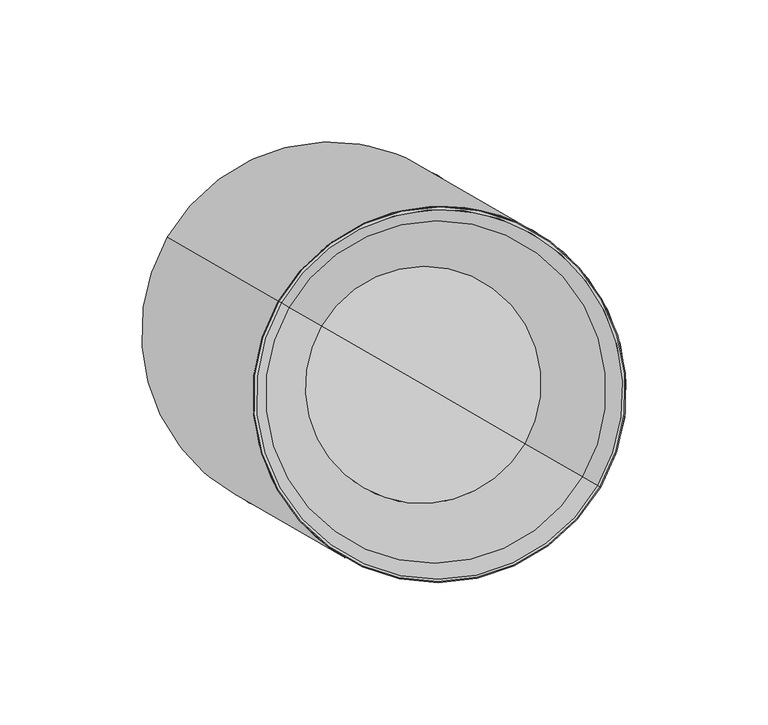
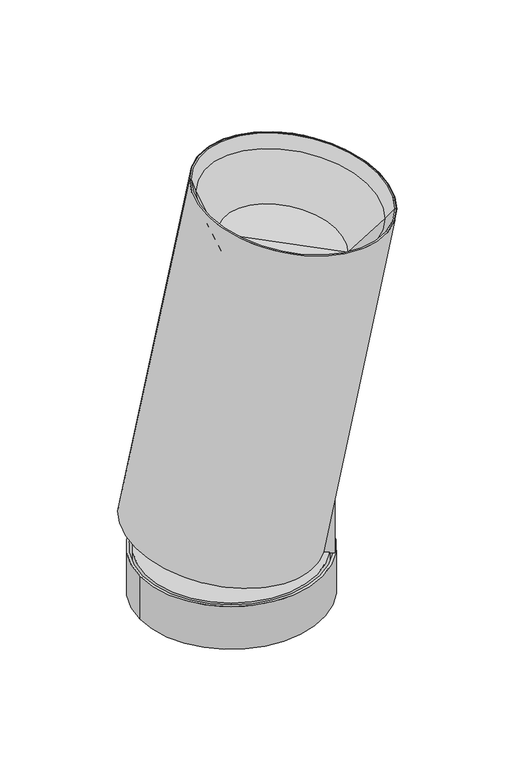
"""IFC4 building model written with IfcOpenShell, lengths in millimetres: light fixture geometry, PIPES C L : 2800 29W-830 62°."""

from ifc_helpers import new_model, si_unit, point, frame, frame_2d, origin, origin_with_axes, origin_2d, place, context, project, spatial, polyline, circle_curve, trimmed, segment, composite_curve, outline, extrude, source, transform, mapped, element, save
from ifc_brep_helpers import plane_surface, cylinder_surface, revolved_surface, advanced_brep


def light_fixture_78c87cf6(model_context):
    return source(origin(), model_context, "Body", "SolidModel", [
        advanced_brep(
        [(46.0559711, -17.352823, 90.5693671), (40.0406217, -13.8798594, 51.1770569), (54.9674868, -22.497889, 48.1378747), (53.3132657, -21.542824, 37.3049894), (55.0318727, -22.5350622, 36.9550727), (62.7014431, -26.9630907, 87.1802681), (38.0559711, -31.2092294, 90.5693671), (54.7014431, -40.8194972, 87.1802681), (47.0318727, -36.3914687, 36.9550727), (45.3132657, -35.3992305, 37.3049894), (46.9674868, -36.3542954, 48.1378747), (32.0406217, -27.7362659, 51.1770569), (36.0406217, -20.8080627, 51.1770569), (59.1133417, -34.1291037, 87.0964035), (-22.8879728, 13.2143773, 316.0164315), (90.5435419, -52.2753383, 292.9212239), (84.768078, -48.9408727, 284.6716899), (-19.9043086, 11.4917579, 305.9834965), (-61.9877434, 35.7886404, 59.9664157), (-60.2820064, 34.8038326, 59.6191194), (-58.6277853, 33.8487676, 70.4520047), (-3.617765, 2.0887176, 59.2516972), (-8.2733864, 4.7766418, 273.1149364), (64.1029801, -37.0098728, 258.3787565), (27.9147969, -16.1166155, 265.7468465)],
        [
            (0, 1),
            (1, 2),
            (2, 3),
            (3, 4),
            (4, 5),
            (5, 0),
            (6, 7),
            (7, 8),
            (8, 9),
            (9, 10),
            (10, 11),
            (11, 6),
            (0, 6),
            (11, 12),
            (12, 1),
            (5, 13, circle_curve(frame((2.3975843, -1.384246, 98.6440073), z_axis=(-0.1503837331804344, 0.08682408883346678, -0.9848077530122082), x_axis=(0.8528685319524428, -0.4924038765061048, -0.17364817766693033)), 66.5)),
            (13, 7, circle_curve(frame((2.3975843, -1.384246, 98.6440073), z_axis=(-0.1503837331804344, 0.08682408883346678, -0.9848077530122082), x_axis=(0.8528685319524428, -0.4924038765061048, -0.17364817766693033)), 66.5)),
            (14, 15, circle_curve(frame((33.8277846, -19.5304805, 304.4688277), z_axis=(0.1503837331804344, -0.08682408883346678, 0.9848077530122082), x_axis=(0.8528685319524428, -0.4924038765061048, -0.17364817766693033)), 66.5)),
            (15, 16),
            (16, 17, circle_curve(frame((32.4318847, -18.7245574, 295.3275932), z_axis=(-0.1503837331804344, 0.08682408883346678, -0.9848077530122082), x_axis=(0.8528685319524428, -0.4924038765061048, -0.17364817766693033)), 61.3649013)),
            (17, 14),
            (15, 14, circle_curve(frame((33.8277846, -19.5304805, 304.4688277), z_axis=(0.1503837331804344, -0.08682408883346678, 0.9848077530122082), x_axis=(0.8528685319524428, -0.4924038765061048, -0.17364817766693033)), 66.5)),
            (17, 16, circle_curve(frame((32.4318847, -18.7245574, 295.3275932), z_axis=(-0.1503837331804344, 0.08682408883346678, -0.9848077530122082), x_axis=(0.8528685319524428, -0.4924038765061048, -0.17364817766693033)), 61.3649013)),
            (14, 18),
            (18, 8, circle_curve(frame((-5.2719861, 3.0437826, 48.4188119), z_axis=(0.1503837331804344, -0.08682408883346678, 0.9848077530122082), x_axis=(0.8528685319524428, -0.4924038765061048, -0.17364817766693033)), 66.5)),
            (13, 15),
            (4, 18, circle_curve(frame((-5.2719861, 3.0437826, 48.4188119), z_axis=(0.1503837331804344, -0.08682408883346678, 0.9848077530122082), x_axis=(0.8528685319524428, -0.4924038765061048, -0.17364817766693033)), 66.5)),
            (18, 19),
            (19, 9, circle_curve(frame((-5.2719861, 3.0437826, 48.4188119), z_axis=(0.1503837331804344, -0.08682408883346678, 0.9848077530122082), x_axis=(0.8528685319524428, -0.4924038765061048, -0.17364817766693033)), 64.5)),
            (3, 19, circle_curve(frame((-5.2719861, 3.0437826, 48.4188119), z_axis=(0.1503837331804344, -0.08682408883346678, 0.9848077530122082), x_axis=(0.8528685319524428, -0.4924038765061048, -0.17364817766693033)), 64.5)),
            (19, 20),
            (20, 10, circle_curve(frame((-3.617765, 2.0887176, 59.2516972), z_axis=(0.1503837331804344, -0.08682408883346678, 0.9848077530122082), x_axis=(0.8528685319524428, -0.4924038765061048, -0.17364817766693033)), 64.5)),
            (2, 20, circle_curve(frame((-3.617765, 2.0887176, 59.2516972), z_axis=(0.1503837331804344, -0.08682408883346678, 0.9848077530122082), x_axis=(0.8528685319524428, -0.4924038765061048, -0.17364817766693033)), 64.5)),
            (20, 21),
            (21, 12),
            (22, 23, circle_curve(frame((27.9147969, -16.1166155, 265.7468465), z_axis=(0.1503837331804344, -0.08682408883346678, 0.9848077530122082), x_axis=(0.8528685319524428, -0.4924038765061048, -0.17364817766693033)), 42.431139)),
            (23, 24),
            (24, 22),
            (23, 22, circle_curve(frame((27.9147969, -16.1166155, 265.7468465), z_axis=(0.1503837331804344, -0.08682408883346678, 0.9848077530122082), x_axis=(0.8528685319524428, -0.4924038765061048, -0.17364817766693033)), 42.431139)),
            (16, 23),
            (22, 17),
        ],
        [
            plane_surface(frame((46.0559711, -17.352823, 90.5693671), z_axis=(-0.5000000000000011, -0.8660254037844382, 0.0), x_axis=(0.15038373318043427, -0.08682408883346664, 0.9848077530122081))),
            plane_surface(frame((38.0559711, -31.2092294, 90.5693671), z_axis=(0.5000000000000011, 0.8660254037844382, 0.0), x_axis=(-0.15038373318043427, 0.08682408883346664, -0.9848077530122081))),
            plane_surface(frame((38.0559711, -31.2092294, 90.5693671), z_axis=(0.8528685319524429, -0.4924038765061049, -0.17364817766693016), x_axis=(0.500000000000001, 0.8660254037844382, 0.0))),
            plane_surface(frame((59.3776844, -43.5193264, 86.2281626), z_axis=(-0.1503837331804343, 0.0868240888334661, -0.9848077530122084), x_axis=(0.500000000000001, 0.8660254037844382, 0.0))),
            revolved_surface(polyline([(84.768078, -48.9408727, 284.6716899), (90.5435419, -52.2753383, 292.9212239)]), (-6.0919355, 3.5171806, 43.0492649), (-0.15038373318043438, 0.08682408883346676, -0.984807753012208)),
            cylinder_surface(frame((-6.0919355, 3.5171806, 43.0492649), z_axis=(-0.15038373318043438, 0.08682408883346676, -0.984807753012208), x_axis=(0.8528685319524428, -0.4924038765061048, -0.17364817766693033)), 66.5),
            plane_surface(frame((-5.2719861, 3.0437826, 48.4188119), z_axis=(-0.1503837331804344, 0.08682408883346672, -0.9848077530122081), x_axis=(0.8528685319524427, -0.49240387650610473, -0.17364817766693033))),
            revolved_surface(polyline([(49.738034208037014, -28.716267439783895, 37.21850444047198), (51.39225528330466, -29.671332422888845, 48.05138979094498)]), (-6.0919355, 3.5171806, 43.0492649), (-0.15038373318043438, 0.08682408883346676, -0.984807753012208)),
            plane_surface(frame((-3.617765, 2.0887176, 59.2516972), z_axis=(-0.1503837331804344, 0.08682408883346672, -0.9848077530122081), x_axis=(0.8528685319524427, -0.49240387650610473, -0.17364817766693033))),
            plane_surface(frame((27.9147969, -16.1166155, 265.7468465), z_axis=(0.1503837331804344, -0.08682408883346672, 0.9848077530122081), x_axis=(0.8528685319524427, -0.49240387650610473, -0.17364817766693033))),
            revolved_surface(polyline([(64.1029801, -37.0098728, 258.3787565), (84.768078, -48.9408727, 284.6716899)]), (-6.0919355, 3.5171806, 43.0492649), (-0.15038373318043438, 0.08682408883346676, -0.984807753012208)),
        ],
        [
            (0, [[1, 2, 3, 4, 5, 6]]),
            (1, [[7, 8, 9, 10, 11, 12]]),
            (2, [[13, -12, 14, 15, -1]]),
            (3, [[-13, -6, 16, 17, -7]]),
            (4, [[18, 19, 20, 21]]),
            (4, [[-19, 22, -21, 23]]),
            (5, [[-18, 24, 25, -8, -17, 26]]),
            (5, [[-22, -26, -16, -5, 27, -24]]),
            (6, [[28, 29, -9, -25]]),
            (6, [[-28, -27, -4, 30]]),
            (7, [[31, 32, -10, -29]]),
            (7, [[-31, -30, -3, 33]]),
            (8, [[34, 35, -14, -11, -32]]),
            (8, [[-34, -33, -2, -15, -35]]),
            (9, [[36, 37, 38]]),
            (9, [[-37, 39, -38]]),
            (10, [[-20, 40, -36, 41]]),
            (10, [[-23, -41, -39, -40]]),
        ],
    ),
        advanced_brep(
        [(38.6871681, -13.0984426, 42.3137872), (38.3864007, -12.9247945, 40.3441717), (51.5883588, -20.5469485, 37.6561888), (51.8891262, -20.7205967, 39.6258043), (30.3864007, -26.7812009, 40.3441717), (30.6871681, -26.9548491, 42.3137872), (43.8891262, -34.5770032, 39.6258043), (43.5883588, -34.403355, 37.6561888), (34.6871681, -20.0266459, 42.3137872), (34.3864007, -19.8529977, 40.3441717), (-4.9712186, 2.8701344, 50.3884274), (-58.2700805, 33.6422467, 61.2403347), (-58.570848, 33.8158948, 59.2707192), (-5.2719861, 3.0437826, 48.4188119)],
        [
            (0, 1),
            (1, 2),
            (2, 3),
            (3, 0),
            (4, 5),
            (5, 6),
            (6, 7),
            (7, 4),
            (0, 8),
            (8, 5),
            (4, 9),
            (9, 1),
            (10, 11),
            (11, 6, circle_curve(frame((-4.9712186, 2.8701344, 50.3884274), z_axis=(0.1503837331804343, -0.0868240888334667, 0.9848077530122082), x_axis=(0.8528685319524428, -0.4924038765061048, -0.1736481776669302)), 62.4936434)),
            (8, 10),
            (3, 11, circle_curve(frame((-4.9712186, 2.8701344, 50.3884274), z_axis=(0.1503837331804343, -0.0868240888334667, 0.9848077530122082), x_axis=(0.8528685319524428, -0.4924038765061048, -0.1736481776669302)), 62.4936434)),
            (11, 12),
            (12, 7, circle_curve(frame((-5.2719861, 3.0437826, 48.4188119), z_axis=(0.1503837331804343, -0.0868240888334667, 0.9848077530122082), x_axis=(0.8528685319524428, -0.4924038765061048, -0.1736481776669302)), 62.4936434)),
            (2, 12, circle_curve(frame((-5.2719861, 3.0437826, 48.4188119), z_axis=(0.1503837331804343, -0.0868240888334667, 0.9848077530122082), x_axis=(0.8528685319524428, -0.4924038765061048, -0.1736481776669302)), 62.4936434)),
            (12, 13),
            (13, 9),
        ],
        [
            plane_surface(frame((46.0559711, -17.352823, 90.5693671), z_axis=(-0.5000000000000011, -0.8660254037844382, 0.0), x_axis=(0.15038373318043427, -0.08682408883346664, 0.9848077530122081))),
            plane_surface(frame((38.0559711, -31.2092294, 90.5693671), z_axis=(0.5000000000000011, 0.8660254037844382, 0.0), x_axis=(-0.15038373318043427, 0.08682408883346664, -0.9848077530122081))),
            plane_surface(frame((38.0559711, -31.2092294, 90.5693671), z_axis=(0.8528685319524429, -0.4924038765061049, -0.17364817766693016), x_axis=(0.500000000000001, 0.8660254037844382, 0.0))),
            plane_surface(frame((-4.9712186, 2.8701344, 50.3884274), z_axis=(0.15038373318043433, -0.08682408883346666, 0.9848077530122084), x_axis=(0.8528685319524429, -0.49240387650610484, -0.17364817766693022))),
            cylinder_surface(frame((-6.0919355, 3.5171806, 43.0492649), z_axis=(-0.15038373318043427, 0.08682408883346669, -0.984807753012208), x_axis=(0.8528685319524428, -0.4924038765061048, -0.1736481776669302)), 62.4936434),
            plane_surface(frame((-5.2719861, 3.0437826, 48.4188119), z_axis=(-0.15038373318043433, 0.08682408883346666, -0.9848077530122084), x_axis=(0.8528685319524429, -0.49240387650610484, -0.17364817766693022))),
        ],
        [
            (0, [[1, 2, 3, 4]]),
            (1, [[5, 6, 7, 8]]),
            (2, [[-1, 9, 10, -5, 11, 12]]),
            (3, [[13, 14, -6, -10, 15]]),
            (3, [[-13, -15, -9, -4, 16]]),
            (4, [[17, 18, -7, -14]]),
            (4, [[-17, -16, -3, 19]]),
            (5, [[20, 21, -11, -8, -18]]),
            (5, [[-20, -19, -2, -12, -21]]),
        ],
    ),
        advanced_brep(
        [(-22.8879728, 13.2143773, 316.0164315), (90.5435419, -52.2753383, 292.9212239), (89.5688625, -51.7126069, 293.1196734), (-21.9132934, 12.6516458, 315.817982), (-7.6524379, 4.4181371, 274.0039349), (63.7827992, -36.8250163, 259.4593735), (28.0651806, -16.2034396, 266.7316542), (-19.0932659, 11.0235022, 306.3352957), (84.1101495, -48.5610175, 285.3225788), (-19.9043086, 11.4917579, 305.9834965), (84.768078, -48.9408727, 284.6716899), (-8.2733864, 4.7766418, 273.1149364), (64.1029801, -37.0098728, 258.3787565), (27.9147969, -16.1166155, 265.7468465)],
        [
            (0, 1, circle_curve(frame((33.8277846, -19.5304805, 304.4688277), z_axis=(0.1503837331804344, -0.08682408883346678, 0.9848077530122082), x_axis=(0.8528685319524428, -0.4924038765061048, -0.17364817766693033)), 66.5)),
            (1, 2),
            (2, 3, circle_curve(frame((33.8277846, -19.5304805, 304.4688277), z_axis=(-0.1503837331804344, 0.08682408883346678, -0.9848077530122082), x_axis=(0.8528685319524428, -0.4924038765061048, -0.17364817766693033)), 65.357175)),
            (3, 0),
            (1, 0, circle_curve(frame((33.8277846, -19.5304805, 304.4688277), z_axis=(0.1503837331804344, -0.08682408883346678, 0.9848077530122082), x_axis=(0.8528685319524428, -0.4924038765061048, -0.17364817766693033)), 66.5)),
            (3, 2, circle_curve(frame((33.8277846, -19.5304805, 304.4688277), z_axis=(-0.1503837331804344, 0.08682408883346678, -0.9848077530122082), x_axis=(0.8528685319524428, -0.4924038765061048, -0.17364817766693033)), 65.357175)),
            (4, 5, circle_curve(frame((28.0651806, -16.2034396, 266.7316542), z_axis=(0.1503837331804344, -0.08682408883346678, 0.9848077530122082), x_axis=(0.8528685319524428, -0.4924038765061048, -0.17364817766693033)), 41.8793955)),
            (5, 6),
            (6, 4),
            (5, 4, circle_curve(frame((28.0651806, -16.2034396, 266.7316542), z_axis=(0.1503837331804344, -0.08682408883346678, 0.9848077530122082), x_axis=(0.8528685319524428, -0.4924038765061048, -0.17364817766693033)), 41.8793955)),
            (7, 8, circle_curve(frame((32.5084418, -18.7687576, 295.8289373), z_axis=(0.1503837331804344, -0.08682408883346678, 0.9848077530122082), x_axis=(0.8528685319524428, -0.4924038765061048, -0.17364817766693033)), 60.5037069)),
            (8, 5),
            (4, 7),
            (8, 7, circle_curve(frame((32.5084418, -18.7687576, 295.8289373), z_axis=(0.1503837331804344, -0.08682408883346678, 0.9848077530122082), x_axis=(0.8528685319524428, -0.4924038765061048, -0.17364817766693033)), 60.5037069)),
            (9, 10, circle_curve(frame((32.4318847, -18.7245574, 295.3275932), z_axis=(0.1503837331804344, -0.08682408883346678, 0.9848077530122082), x_axis=(0.8528685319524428, -0.4924038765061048, -0.17364817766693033)), 61.3649013)),
            (10, 1),
            (0, 9),
            (10, 9, circle_curve(frame((32.4318847, -18.7245574, 295.3275932), z_axis=(0.1503837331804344, -0.08682408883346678, 0.9848077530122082), x_axis=(0.8528685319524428, -0.4924038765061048, -0.17364817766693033)), 61.3649013)),
            (11, 12, circle_curve(frame((27.9147969, -16.1166155, 265.7468465), z_axis=(0.1503837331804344, -0.08682408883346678, 0.9848077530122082), x_axis=(0.8528685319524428, -0.4924038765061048, -0.17364817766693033)), 42.431139)),
            (12, 10),
            (9, 11),
            (12, 11, circle_curve(frame((27.9147969, -16.1166155, 265.7468465), z_axis=(0.1503837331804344, -0.08682408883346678, 0.9848077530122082), x_axis=(0.8528685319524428, -0.4924038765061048, -0.17364817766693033)), 42.431139)),
            (13, 12),
            (11, 13),
            (2, 8),
            (7, 3),
        ],
        [
            plane_surface(frame((33.8277846, -19.5304805, 304.4688277), z_axis=(0.1503837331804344, -0.08682408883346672, 0.9848077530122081), x_axis=(0.8528685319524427, -0.49240387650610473, -0.17364817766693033))),
            plane_surface(frame((28.0651806, -16.2034396, 266.7316542), z_axis=(0.1503837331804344, -0.08682408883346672, 0.9848077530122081), x_axis=(0.8528685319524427, -0.49240387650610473, -0.17364817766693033))),
            revolved_surface(polyline([(63.7827992, -36.8250163, 259.4593735), (84.1101495, -48.5610175, 285.3225788)]), (-6.0919355, 3.5171806, 43.0492649), (-0.15038373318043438, 0.08682408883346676, -0.984807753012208)),
            revolved_surface(polyline([(90.5435419, -52.2753383, 292.9212239), (84.768078, -48.9408727, 284.6716899)]), (-6.0919355, 3.5171806, 43.0492649), (-0.15038373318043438, 0.08682408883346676, -0.984807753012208)),
            revolved_surface(polyline([(84.768078, -48.9408727, 284.6716899), (64.1029801, -37.0098728, 258.3787565)]), (-6.0919355, 3.5171806, 43.0492649), (-0.15038373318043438, 0.08682408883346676, -0.984807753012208)),
            plane_surface(frame((27.9147969, -16.1166155, 265.7468465), z_axis=(-0.1503837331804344, 0.08682408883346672, -0.9848077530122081), x_axis=(0.8528685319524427, -0.49240387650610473, -0.17364817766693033))),
            revolved_surface(polyline([(84.1101495, -48.5610175, 285.3225788), (89.5688625, -51.7126069, 293.1196734)]), (-6.0919355, 3.5171806, 43.0492649), (-0.15038373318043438, 0.08682408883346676, -0.984807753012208)),
        ],
        [
            (0, [[1, 2, 3, 4]]),
            (0, [[5, -4, 6, -2]]),
            (1, [[7, 8, 9]]),
            (1, [[10, -9, -8]]),
            (2, [[11, 12, -7, 13]]),
            (2, [[14, -13, -10, -12]]),
            (3, [[15, 16, -1, 17]]),
            (3, [[18, -17, -5, -16]]),
            (4, [[19, 20, -15, 21]]),
            (4, [[22, -21, -18, -20]]),
            (5, [[23, -19, 24]]),
            (5, [[-24, -22, -23]]),
            (6, [[-3, 25, -11, 26]]),
            (6, [[-6, -26, -14, -25]]),
        ],
    ),
        extrude(outline(composite_curve([segment(trimmed(circle_curve(origin_2d(), 62.5), [point((-31.25, -54.1265877))], [point((31.25, 54.1265877))], False, "CARTESIAN"), True, "CONTINUOUS"), segment(trimmed(circle_curve(origin_2d(), 62.5), [point((31.25, 54.1265877))], [point((-31.25, -54.1265877))], False, "CARTESIAN"), True, "CONTINUOUS")], self_intersect=False)), origin_with_axes(), (0.0, 0.0, 1.0), 33.0),
        extrude(outline(composite_curve([segment(polyline([(0.2983896, -17.0947277), (-46.2490169, -17.0947277), (-46.2490169, 1.8978255), (7.5438399, 1.8978255), (7.5438399, -0.6021745), (9.7509831, -0.6021745), (8.4667604, -9.7398936)]), True, "CONTINUOUS"), segment(trimmed(circle_curve(frame_2d((0.0, -8.5499681)), 8.5499681), [point((8.4667604, -9.7398936))], [point((0.2983896, -17.0947277))], False, "CARTESIAN"), True, "CONTINUOUS")], self_intersect=False)), frame((51.5810988, -37.863265, 79.2490169), z_axis=(0.500000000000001, 0.8660254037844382, 0.0), x_axis=(0.0, 0.0, 1.0)), (0.0, 0.0, 1.0), 14.0),
        extrude(outline(composite_curve([segment(trimmed(circle_curve(origin_2d(), 66.5), [point((-66.5, 0.0))], [point((66.5, 0.0))], False, "CARTESIAN"), True, "CONTINUOUS"), segment(trimmed(circle_curve(origin_2d(), 66.5), [point((66.5, 0.0))], [point((-66.5, 0.0))], False, "CARTESIAN"), True, "CONTINUOUS")], self_intersect=False), holes=[composite_curve([segment(trimmed(circle_curve(origin_2d(), 64.5), [point((-64.5, 0.0))], [point((64.5, 0.0))], True, "CARTESIAN"), True, "CONTINUOUS"), segment(trimmed(circle_curve(origin_2d(), 64.5), [point((64.5, 0.0))], [point((-64.5, 0.0))], True, "CARTESIAN"), True, "CONTINUOUS")], self_intersect=False)]), origin_with_axes(), (0.0, 0.0, 1.0), 33.0),
    ])


if __name__ == "__main__":
    model = new_model("IFC4")
    model_context = context("Model", 3, world=origin())
    ifc_project = project(units=[si_unit("LENGTHUNIT", "METRE", prefix="MILLI")], contexts=[model_context])
    site = spatial("IfcSite", under=ifc_project)
    building = spatial("IfcBuilding", under=site)
    placement = place(None, origin())
    light_fixture_shape = light_fixture_78c87cf6(model_context)
    element("IfcLightFixture", 1, ObjectType="PIPES C L : 2800 29W-830 62°", at=placement, inside=building, context=model_context, shape_type="MappedRepresentation", body=[
        mapped(light_fixture_shape, transform((0.0, 0.0, 0.0), x_axis=(1.0, 0.0, 0.0), y_axis=(0.0, 1.0, 0.0), z_axis=(0.0, 0.0, 1.0))),
    ])
    save(model, "model.ifc")
